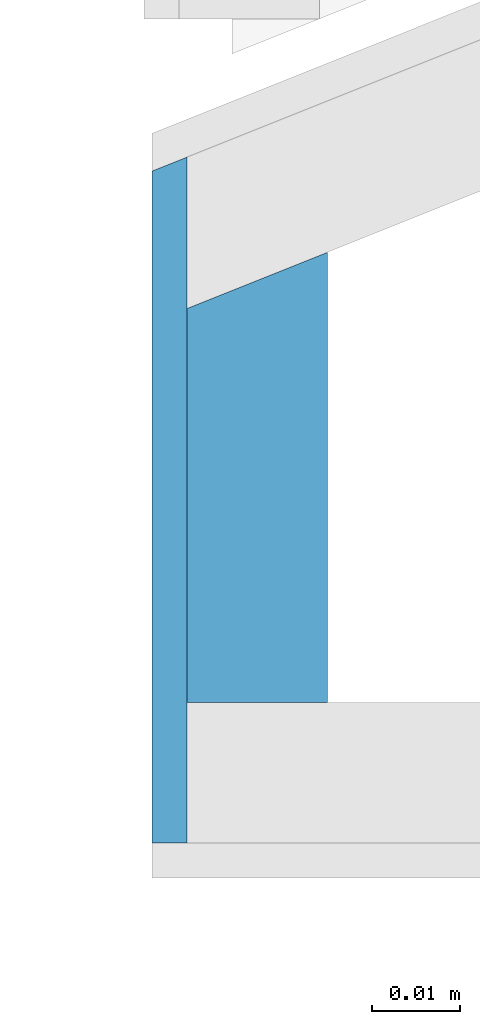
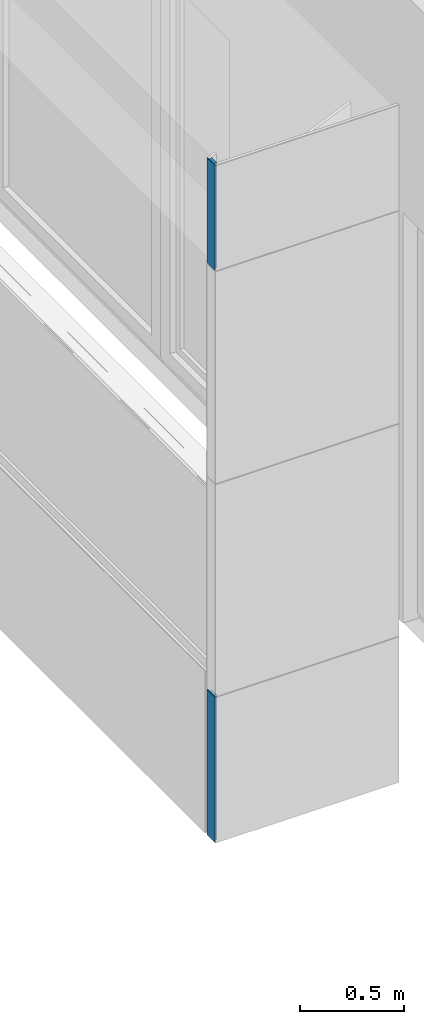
# One storey, part 14 of 57: 4 building element parts, 1 element without a shape of its own.
"""IFC2X3 building model written with IfcOpenShell, lengths in millimetres."""

from ifc_helpers import new_model, entity, si_unit, converted_unit, direction, frame, origin, place, context, subcontext, project, spatial, polyline, outline, extrude, material, type_object, element, aggregate, save


model = new_model("IFC2X3")

# Units and contexts
model_context = context("Model", 3, precision=0.01, world=origin(), true_north=direction((6.123233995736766e-17, 1.0)))
plan_context = context("Plan", 3, precision=0.01, world=origin(), true_north=direction((6.123233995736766e-17, 1.0)))
body_context = subcontext(model_context, "Body", "Model", "MODEL_VIEW")
ifc_project = project(units=[si_unit("LENGTHUNIT", "METRE", prefix="MILLI"), converted_unit("PLANEANGLEUNIT", "DEGREE", entity("IfcPlaneAngleMeasure", 0.017453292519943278), si_unit("PLANEANGLEUNIT", "RADIAN"), dimensions=[0, 0, 0, 0, 0, 0, 0]), si_unit("AREAUNIT", "SQUARE_METRE")], contexts=[model_context, plan_context])

# Site, building, storey
site_placement = place(None, origin())
site = spatial("IfcSite", under=ifc_project, at=site_placement, Name="Default", CompositionType="ELEMENT")
building_placement = place(site_placement, origin())
building = spatial("IfcBuilding", under=site, at=building_placement, CompositionType="ELEMENT")
storey_placement = place(building_placement, frame((0.0, 0.0, 12811.000000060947)))
storey = spatial("IfcBuildingStorey", under=building, at=storey_placement, Name="5K", CompositionType="ELEMENT", Elevation=12811.000000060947)

# Wall, building element parts
wall_type = type_object("IfcWallType", Name="Basic Wall:VS-komposiit", PredefinedType="STANDARD")
wall_placement = place(storey_placement, frame((-1441.0, 6289.203543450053, -946.0), z_axis=(0.0, 0.0, 1.0), x_axis=(0.0, -1.0, 0.0)))
wall = element("IfcWall", 1, at=wall_placement, inside=storey, type_object=wall_type, Name="Basic Wall:VS-komposiit", ObjectType="Basic Wall:VS-komposiit")
ifc_material_1 = material(Name="_K. Välisviimistlus. Alumiinium-komposiitplaat")
building_element_part_1_placement = place(wall_placement, origin())
building_element_part_1 = element("IfcBuildingElementPart", 2, at=building_element_part_1_placement, material=ifc_material_1, Name="Part", context=body_context, shape_type="SweptSolid", body=[
    extrude(outline(polyline([(-37.82590143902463, -2.0), (38.62600810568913, -2.0), (38.6260081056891, 2.0), (-39.42611477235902, 2.0), (-37.82590143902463, -2.0)])), frame((28.594123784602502, -8.0, 0.0)), (0.0, 0.0, 1.0), 851.0000000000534),
])
ifc_material_2 = material(Name="_K. Õhk. Roov. Fassaadikatte alusroov. Horisontaalne. 25 mm")
building_element_part_2_placement = place(wall_placement, origin())
building_element_part_2 = element("IfcBuildingElementPart", 3, at=building_element_part_2_placement, material=ifc_material_2, Name="Part", context=body_context, shape_type="SweptSolid", body=[
    extrude(outline(polyline([(-20.809425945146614, -8.0), (24.009852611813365, -8.0), (24.00985261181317, 8.0), (-27.21027927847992, 8.0), (-20.809425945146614, -8.0)])), frame((27.21027927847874, 2.0, 0.0)), (0.0, 0.0, 1.0), 851.0000000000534),
])
building_element_part_3_placement = place(wall_placement, origin())
building_element_part_3 = element("IfcBuildingElementPart", 4, at=building_element_part_3_placement, material=ifc_material_2, Name="Part", context=body_context, shape_type="SweptSolid", body=[
    extrude(outline(polyline([(-20.809425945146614, -8.0), (24.009852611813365, -8.0), (24.00985261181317, 8.0), (-27.210279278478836, 8.0), (-20.809425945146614, -8.0)])), frame((27.21027927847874, 2.0, 3346.0)), (0.0, 0.0, 1.0), 614.9999999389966),
])
building_element_part_4_placement = place(wall_placement, origin())
building_element_part_4 = element("IfcBuildingElementPart", 5, at=building_element_part_4_placement, material=ifc_material_1, Name="Part", context=body_context, shape_type="SweptSolid", body=[
    extrude(outline(polyline([(-37.82590143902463, -2.0), (38.62600810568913, -2.0), (38.6260081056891, 2.0), (-39.42611477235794, 2.0), (-37.82590143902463, -2.0)])), frame((28.594123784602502, -8.0, 3346.0)), (0.0, 0.0, 1.0), 614.9999999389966),
])
aggregate(wall, [building_element_part_1, building_element_part_2, building_element_part_3, building_element_part_4])

save(model, "model.ifc")
